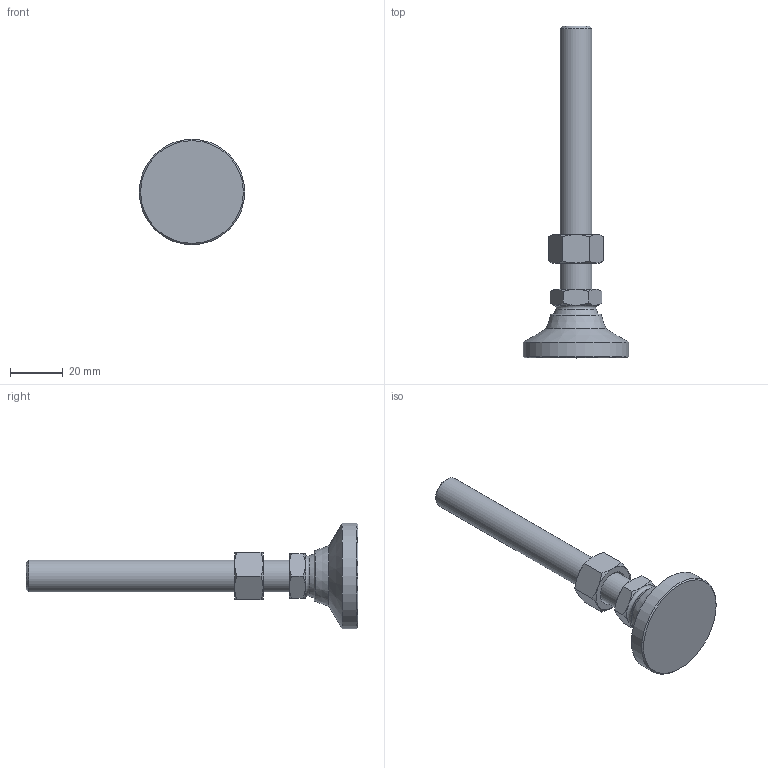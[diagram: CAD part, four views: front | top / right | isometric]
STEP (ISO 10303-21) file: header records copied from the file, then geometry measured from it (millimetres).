
FILE_DESCRIPTION( ( 'STEP AP214' ), ' ' );
FILE_NAME( 'O:/ganter_2015/teil_2/2_5/gn343_2/gn343_2_os/Levelling foot with threaded stud GN 343.2-40-M12-100-OS-(0).stp', '2015-10-26T09:07:36', ( '' ), ( '' ), ' ', 'PARTsolutions', ' ' );
FILE_SCHEMA( ( 'AUTOMOTIVE_DESIGN { 1 0 10303 214 1 1 1 1 }' ) );
Length unit declared in the file: millimetre
Products named in the file (4): Levelling foot with threaded stud GN 343.2-40-M12-100-OS-(0); _Levelling foot with threaded stud GN 343.2-40-M12-100-OS-(0)_foot; _Levelling foot with threaded stud GN 343.2-40-M12-100-OS-(0)_screw; _Stainless Steel-Levelling feet GN 343.2-40-M12-100-OS-(0)_nut
Assembly tree (3 placements, depth 2):
  Levelling foot with threaded stud GN 343.2-40-M12-100-OS-(0)
    _Levelling foot with threaded stud GN 343.2-40-M12-100-OS-(0)_foot
    _Levelling foot with threaded stud GN 343.2-40-M12-100-OS-(0)_screw
    _Stainless Steel-Levelling feet GN 343.2-40-M12-100-OS-(0)_nut
Bounding box: 40 x 126 x 40 mm (x, y, z)
Volume: 29002.8 mm3; surface area: 10524.8 mm2
Topology: 3 solids, 3 shells, 55 faces, 116 edges, 67 vertices
Faces by surface type: cone 30, plane 18, cylinder 3, torus 2, sphere 2
Full cylindrical faces by diameter (mm): 10.106 x1, 12 x1, 40 x1
Entity records: 2038 total; most frequent: CARTESIAN_POINT 495, DIRECTION 208, ORIENTED_EDGE 198, EDGE_CURVE 99, AXIS2_PLACEMENT_3D 98, EDGE_LOOP 70, VERTEX_POINT 65, FACE_OUTER_BOUND 60
